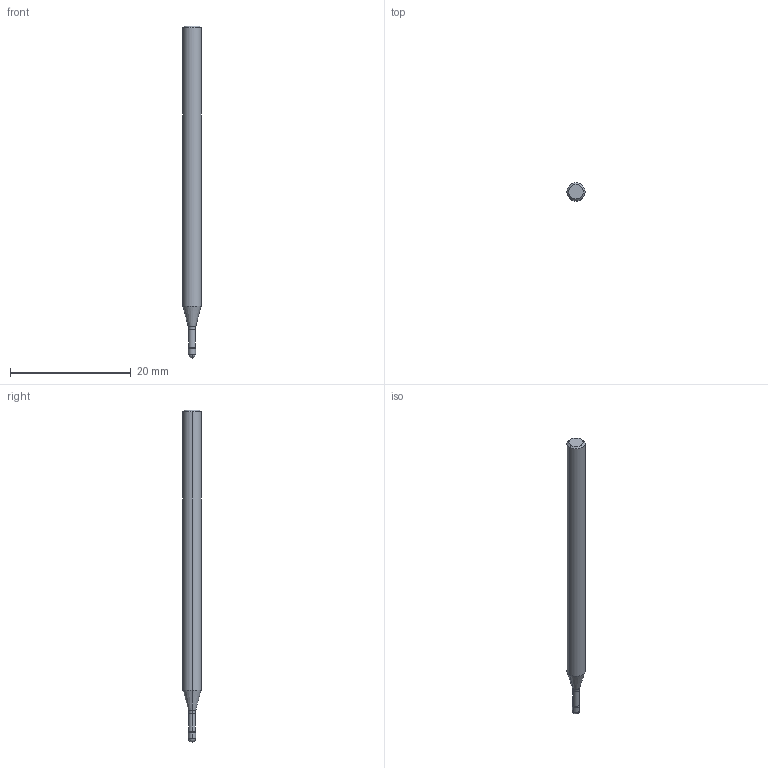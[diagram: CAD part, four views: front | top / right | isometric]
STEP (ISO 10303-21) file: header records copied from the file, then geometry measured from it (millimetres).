
FILE_DESCRIPTION (( 'STEP AP214' ), '1' );
FILE_NAME ('561.120.75_3D-model.step', '2022-02-18T16:53:39', ( '' ), ( '' ), 'SwSTEP 2.0', 'SolidWorks 2020', '' );
FILE_SCHEMA (( 'AUTOMOTIVE_DESIGN' ));
Length unit declared in the file: millimetre
Products named in the file (3): 561.120.75_3D-model; CUT-3D^Baugr2; NOCUT-3D^Baugr2
Assembly tree (2 placements, depth 2):
  561.120.75_3D-model
    CUT-3D^Baugr2
    NOCUT-3D^Baugr2
Bounding box: 3 x 3 x 55 mm (x, y, z)
Volume: 345.3 mm3; surface area: 486.8 mm2
Topology: 2 solids, 2 shells, 19 faces, 38 edges, 21 vertices
Faces by surface type: cylinder 6, cone 6, plane 3, sphere 2, torus 2
Entity records: 604 total; most frequent: DIRECTION 114, CARTESIAN_POINT 84, ORIENTED_EDGE 72, AXIS2_PLACEMENT_3D 51, EDGE_CURVE 36, CIRCLE 24, VERTEX_POINT 21, ADVANCED_FACE 19
